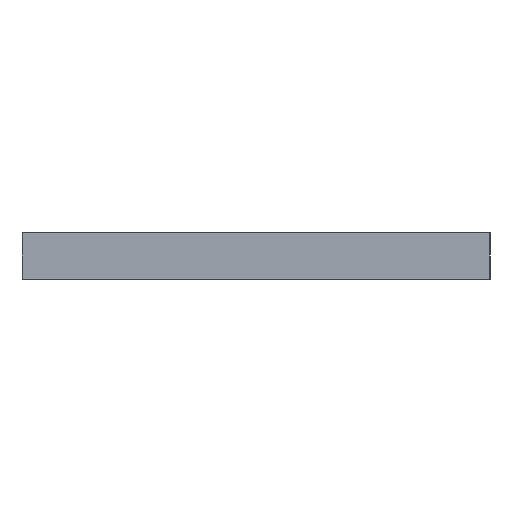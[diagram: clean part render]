
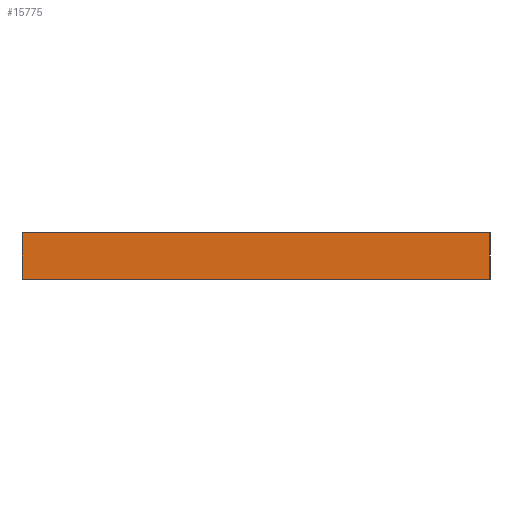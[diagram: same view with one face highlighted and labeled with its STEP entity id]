
A CAD part, left-side view. The second image highlights one B-rep face of the part: STEP entity #15775.
In plain terms, the highlighted planar face has unit normal (-1, 0, 0).
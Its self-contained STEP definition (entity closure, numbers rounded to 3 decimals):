
#1628=FACE_OUTER_BOUND('',#2410,.T.);
#2410=EDGE_LOOP('',(#14474,#14475,#14476,#14477));
#2617=LINE('',#22238,#4387);
#4179=LINE('',#26223,#5949);
#4184=LINE('',#26232,#5954);
#4185=LINE('',#26234,#5955);
#4387=VECTOR('',#17635,10.);
#5949=VECTOR('',#21565,10.);
#5954=VECTOR('',#21574,10.);
#5955=VECTOR('',#21577,10.);
#6259=VERTEX_POINT('',#22236);
#6260=VERTEX_POINT('',#22237);
#7499=VERTEX_POINT('',#26221);
#7501=VERTEX_POINT('',#26230);
#7828=EDGE_CURVE('',#6259,#6260,#2617,.T.);
#9823=EDGE_CURVE('',#7499,#6259,#4179,.T.);
#9828=EDGE_CURVE('',#7501,#6260,#4184,.T.);
#9829=EDGE_CURVE('',#7499,#7501,#4185,.T.);
#14474=ORIENTED_EDGE('',*,*,#9829,.T.);
#14475=ORIENTED_EDGE('',*,*,#9828,.T.);
#14476=ORIENTED_EDGE('',*,*,#7828,.F.);
#14477=ORIENTED_EDGE('',*,*,#9823,.F.);
#14994=PLANE('',#17128);
#15775=ADVANCED_FACE('',(#1628),#14994,.T.);
#17128=AXIS2_PLACEMENT_3D('',#26233,#21575,#21576);
#17635=DIRECTION('',(0.,-1.,0.));
#21565=DIRECTION('',(0.,0.,1.));
#21574=DIRECTION('',(0.,0.,1.));
#21575=DIRECTION('center_axis',(-1.,0.,0.));
#21576=DIRECTION('ref_axis',(0.,-1.,0.));
#21577=DIRECTION('',(0.,-1.,0.));
#22236=CARTESIAN_POINT('',(0.,30.,3.));
#22237=CARTESIAN_POINT('',(0.,0.,3.));
#22238=CARTESIAN_POINT('',(0.,30.,3.));
#26221=CARTESIAN_POINT('',(0.,30.,0.));
#26223=CARTESIAN_POINT('',(0.,30.,0.));
#26230=CARTESIAN_POINT('',(0.,0.,0.));
#26232=CARTESIAN_POINT('',(0.,0.,0.));
#26233=CARTESIAN_POINT('Origin',(0.,30.,0.));
#26234=CARTESIAN_POINT('',(0.,30.,0.));
